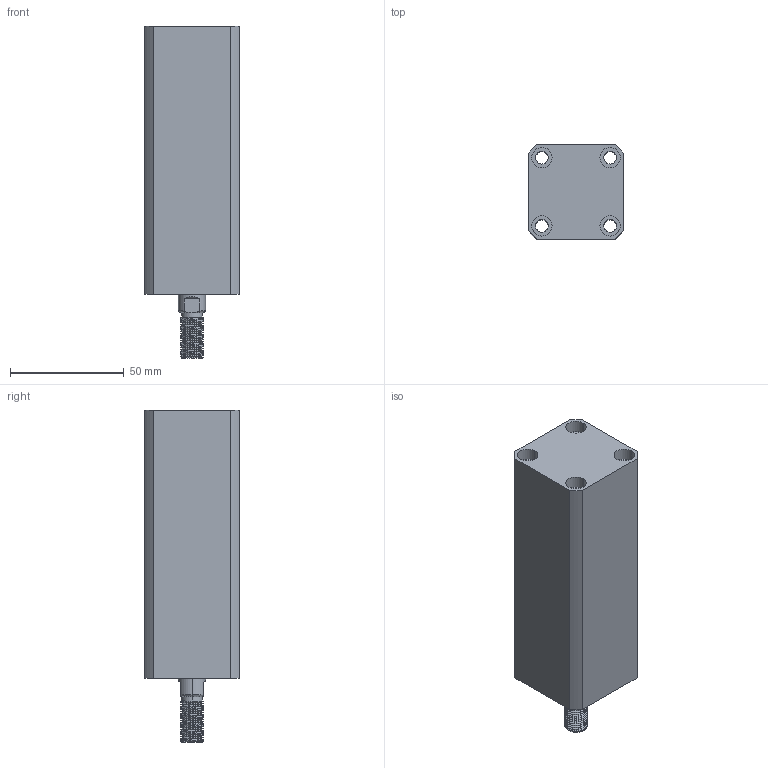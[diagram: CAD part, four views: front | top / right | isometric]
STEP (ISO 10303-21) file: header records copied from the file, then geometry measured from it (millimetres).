
FILE_DESCRIPTION (( 'STEP AP214' ), '1' );
FILE_NAME ('chtb-sd20x75w_asm.STEP', '2018-05-16T09:51:01', ( 'Windows' ), ( 'Microsoft' ), 'SwSTEP 2.0', 'SolidWorks 2015', '' );
FILE_SCHEMA (( 'AUTOMOTIVE_DESIGN' ));
Length unit declared in the file: millimetre
Products named in the file (4): QG; CHTB-SD20X75WHSG; CHTB-SD20X75NBT; chtb-sd20x75w_asm
Assembly tree (3 placements, depth 2):
  chtb-sd20x75w_asm
    CHTB-SD20X75NBT
    CHTB-SD20X75WHSG
    QG
Bounding box: 42 x 42 x 146 mm (x, y, z)
Volume: 175528.2 mm3; surface area: 49998 mm2
Topology: 3 solids, 3 shells, 234 faces, 624 edges, 415 vertices
Faces by surface type: cylinder 139, plane 40, torus 25, bspline 21, cone 9
Entity records: 13734 total; most frequent: CARTESIAN_POINT 8172, ORIENTED_EDGE 1240, DIRECTION 1039, EDGE_CURVE 620, AXIS2_PLACEMENT_3D 431, VERTEX_POINT 415, EDGE_LOOP 271, FACE_OUTER_BOUND 234
